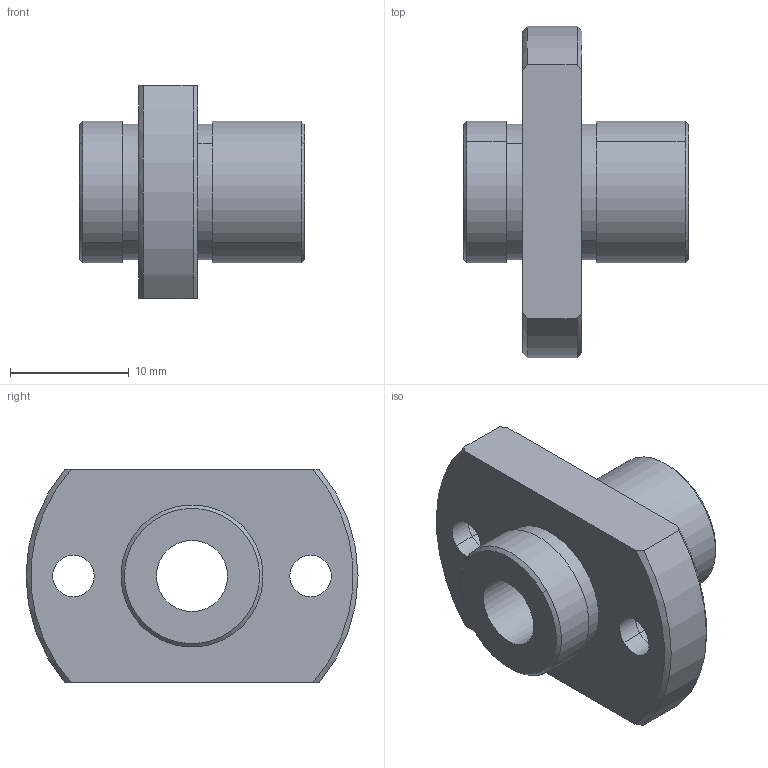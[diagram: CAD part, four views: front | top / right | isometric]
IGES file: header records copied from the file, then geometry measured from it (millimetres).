
Start section: 3D InterOp IGES (Version 21 0 1), Spatial Corp. Copyright (c) 1999-2007.
Global section: file name: NFIO6.igs; native system: Spatial Corp.; preprocessor: 3D InterOp GENERIC/IGES 3.0; author: Noname; organization: Noname; date: 20220307.111212; units: millimetre
Bounding box: 19 x 28 x 18 mm (x, y, z)
Surface area: 2293.2 mm2 (no closed solid volume)
Topology: 0 solids, 0 shells, 38 faces, 180 edges, 180 vertices
Faces by surface type: revolution 28, extrusion 10
